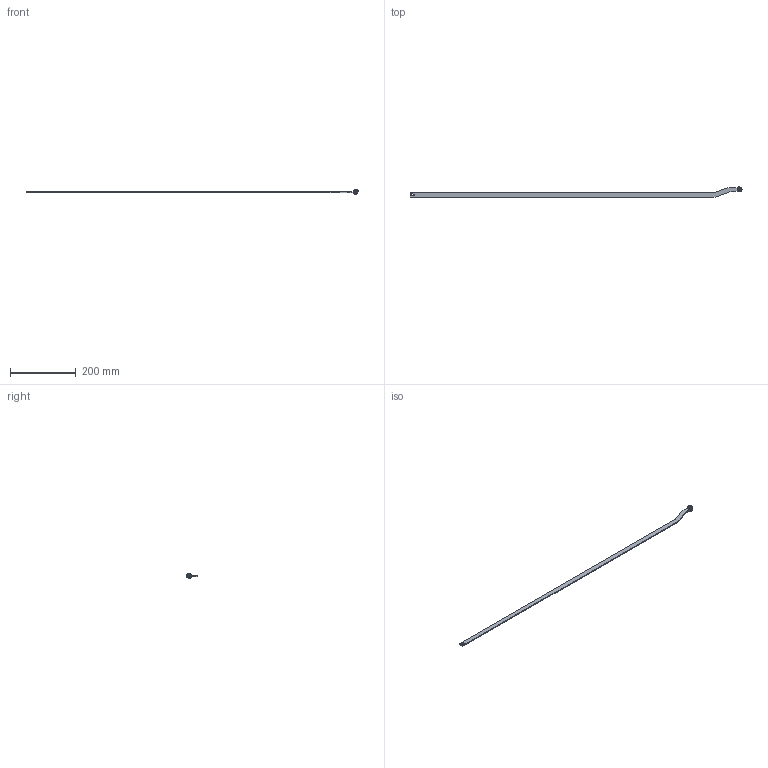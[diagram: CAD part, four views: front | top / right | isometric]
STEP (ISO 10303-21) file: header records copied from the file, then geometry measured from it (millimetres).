
FILE_DESCRIPTION (( 'STEP AP214' ), '1' );
FILE_NAME ('A20P-L.STEP', '2016-08-18T08:37:59', ( 'RST-Dolba' ), ( '' ), 'SwSTEP 2.0', 'SolidWorks 2015', '' );
FILE_SCHEMA (( 'AUTOMOTIVE_DESIGN' ));
Length unit declared in the file: millimetre
Products named in the file (5): 1C.905.001_A; 1C.A.X.Y.L.01_20P; A20P-L; DIN 125_M4; 1C.ROLKA.02.04.00_A-zak
Assembly tree (5 placements, depth 2):
  A20P-L
    1C.A.X.Y.L.01_20P
    1C.905.001_A  x2
    1C.ROLKA.02.04.00_A-zak
    DIN 125_M4
Bounding box: 1007.5 x 31 x 14 mm (x, y, z)
Volume: 43515.3 mm3; surface area: 35772.9 mm2
Topology: 5 solids, 5 shells, 62 faces, 147 edges, 95 vertices
Faces by surface type: cylinder 28, plane 28, torus 4, cone 2
Entity records: 1803 total; most frequent: DIRECTION 305, CARTESIAN_POINT 276, ORIENTED_EDGE 258, EDGE_CURVE 129, AXIS2_PLACEMENT_3D 114, VERTEX_POINT 85, VECTOR 77, LINE 77
